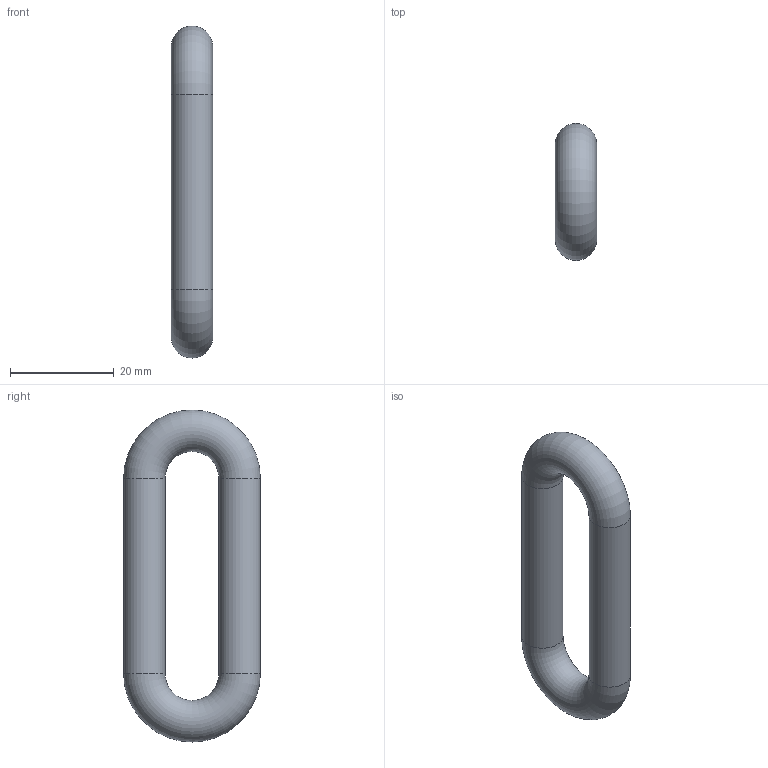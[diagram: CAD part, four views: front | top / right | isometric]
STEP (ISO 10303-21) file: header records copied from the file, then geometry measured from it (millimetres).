
FILE_DESCRIPTION(('Open CASCADE Model'),'2;1');
FILE_NAME('Open CASCADE Shape Model','2026-10-20T13:19:56',('Author'),( 'Open CASCADE'),'Open CASCADE STEP processor 7.9','Open CASCADE 7.9' ,'Unknown');
FILE_SCHEMA(('AUTOMOTIVE_DESIGN { 1 0 10303 214 1 1 1 1 }'));
Length unit declared in the file: millimetre
Products named in the file (1): Open CASCADE STEP translator 7.9 94
Bounding box: 8 x 26.4 x 64.08 mm (x, y, z)
Volume: 6693.6 mm3; surface area: 3346.8 mm2
Topology: 1 solids, 1 shells, 4 faces, 8 edges, 4 vertices
Faces by surface type: cylinder 2, torus 2
Full cylindrical faces by diameter (mm): 8 x2
Entity records: 224 total; most frequent: DIRECTION 40, CARTESIAN_POINT 33, LINE 18, VECTOR 18, ORIENTED_EDGE 16, PCURVE 16, DEFINITIONAL_REPRESENTATION 16, AXIS2_PLACEMENT_3D 11
